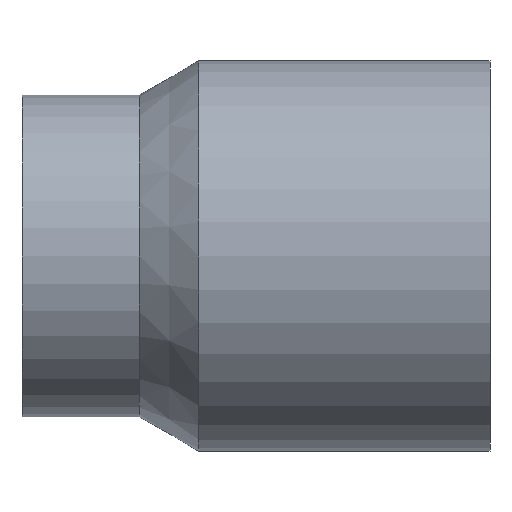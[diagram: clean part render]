
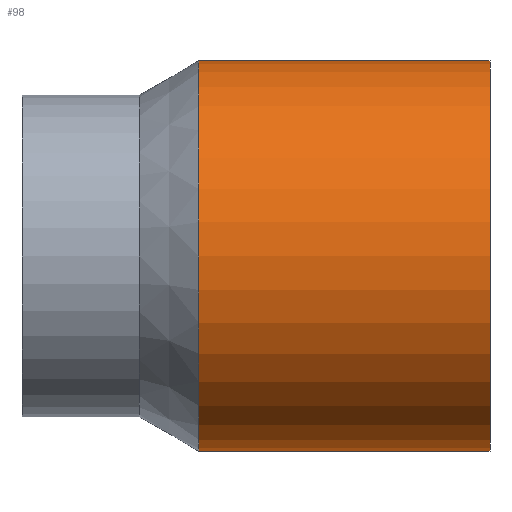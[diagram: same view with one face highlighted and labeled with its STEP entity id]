
A CAD part, front view. The second image highlights one B-rep face of the part: STEP entity #98.
In plain terms, the highlighted cylindrical face has radius 66.8 mm (diameter 133.6 mm), a full revolution.
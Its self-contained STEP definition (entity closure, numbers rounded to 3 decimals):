
#17=CYLINDRICAL_SURFACE($,#115,66.8);
#24=FACE_BOUND($,#46,.T.);
#33=FACE_OUTER_BOUND($,#45,.T.);
#45=EDGE_LOOP($,(#85));
#46=EDGE_LOOP($,(#86));
#56=CIRCLE($,#114,66.8);
#57=CIRCLE($,#116,66.8);
#64=VERTEX_POINT($,#170);
#65=VERTEX_POINT($,#173);
#72=EDGE_CURVE($,#64,#64,#56,.T.);
#73=EDGE_CURVE($,#65,#65,#57,.T.);
#85=ORIENTED_EDGE($,*,*,#73,.F.);
#86=ORIENTED_EDGE($,*,*,#72,.T.);
#98=ADVANCED_FACE($,(#33,#24),#17,.T.);
#114=AXIS2_PLACEMENT_3D($,#171,#142,#143);
#115=AXIS2_PLACEMENT_3D($,#172,#144,#145);
#116=AXIS2_PLACEMENT_3D($,#174,#146,#147);
#142=DIRECTION('center_axis',(1.,0.,0.));
#143=DIRECTION('ref_axis',(0.,1.,0.));
#144=DIRECTION('center_axis',(1.,0.,0.));
#145=DIRECTION('ref_axis',(0.,1.,0.));
#146=DIRECTION('center_axis',(1.,0.,0.));
#147=DIRECTION('ref_axis',(0.,1.,0.));
#170=CARTESIAN_POINT('',(60.438,66.8,0.));
#171=CARTESIAN_POINT('Origin',(60.438,0.,0.));
#172=CARTESIAN_POINT('Origin',(110.219,0.,0.));
#173=CARTESIAN_POINT('',(160.,66.8,0.));
#174=CARTESIAN_POINT('Origin',(160.,0.,0.));
